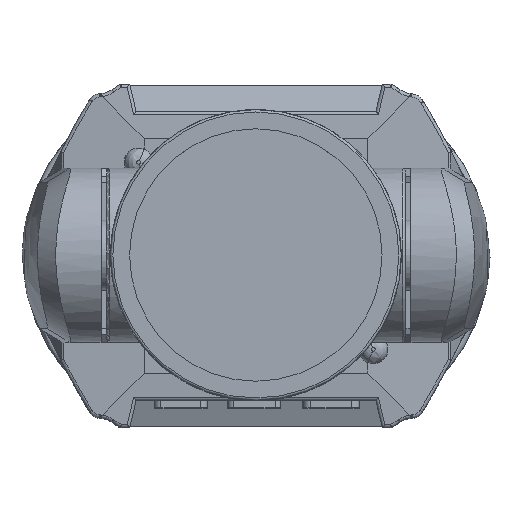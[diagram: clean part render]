
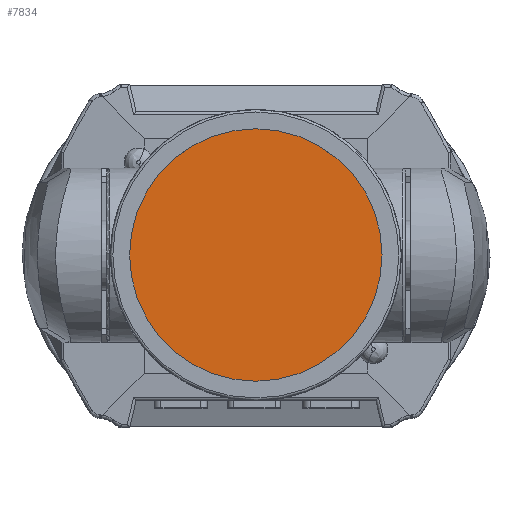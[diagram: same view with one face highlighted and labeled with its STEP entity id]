
A CAD part, top view. The second image highlights one B-rep face of the part: STEP entity #7834.
In plain terms, the highlighted planar face has unit normal (0, 0, 1).
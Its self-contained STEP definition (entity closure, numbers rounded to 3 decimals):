
#566=CIRCLE('',#8566,79.);
#2652=ORIENTED_EDGE('',*,*,#4142,.F.);
#4142=EDGE_CURVE('',#5009,#5009,#566,.T.);
#5009=VERTEX_POINT('',#15083);
#6644=EDGE_LOOP('',(#2652));
#7165=FACE_BOUND('',#6644,.T.);
#7444=PLANE('',#8565);
#7834=ADVANCED_FACE('',(#7165),#7444,.F.);
#8565=AXIS2_PLACEMENT_3D('',#15081,#10275,#10276);
#8566=AXIS2_PLACEMENT_3D('',#15082,#10277,#10278);
#10275=DIRECTION('',(0.,0.,-1.));
#10276=DIRECTION('',(-1.,0.,0.));
#10277=DIRECTION('',(0.,0.,-1.));
#10278=DIRECTION('',(0.,-1.,0.));
#15081=CARTESIAN_POINT('',(0.,0.,109.7));
#15082=CARTESIAN_POINT('',(0.,0.,109.7));
#15083=CARTESIAN_POINT('',(0.,-79.,109.7));
